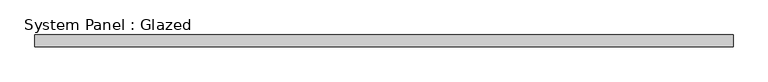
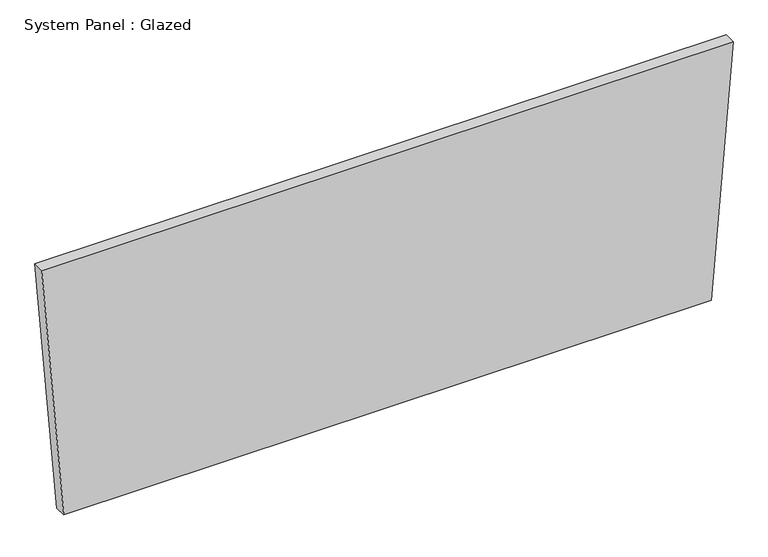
"""IFC4 building model written with IfcOpenShell, lengths in millimetres: plate geometry, System Panel : Glazed."""

from ifc_helpers import new_model, si_unit, frame, origin, place, context, project, spatial, polyline, outline, extrude, source, transform, mapped, element, save


def system_panel_glazed_a075d488(model_context):
    return source(origin(), model_context, "Body", "SweptSolid", [
        extrude(outline(polyline([(0.0, -708.7702769), (0.0, 708.7702769), (582.1079843, 757.1205118), (582.1079843, -757.1205118), (0.0, -708.7702769)])), frame((0.0, 19.05, 0.0), z_axis=(0.0, 1.0, 0.0), x_axis=(0.0, 0.0, 1.0)), (0.0, 0.0, 1.0), 25.4),
    ])


if __name__ == "__main__":
    model = new_model("IFC4")
    model_context = context("Model", 3, world=origin())
    ifc_project = project(units=[si_unit("LENGTHUNIT", "METRE", prefix="MILLI")], contexts=[model_context])
    site = spatial("IfcSite", under=ifc_project)
    building = spatial("IfcBuilding", under=site)
    placement = place(None, origin())
    system_panel_glazed_shape = system_panel_glazed_a075d488(model_context)
    element("IfcPlate", 1, ObjectType="System Panel : Glazed", at=placement, inside=building, context=model_context, shape_type="MappedRepresentation", body=[
        mapped(system_panel_glazed_shape, transform((0.0, 0.0, 0.0), x_axis=(1.0, 0.0, 0.0), y_axis=(0.0, 1.0, 0.0), z_axis=(0.0, 0.0, 1.0))),
    ])
    save(model, "model.ifc")
